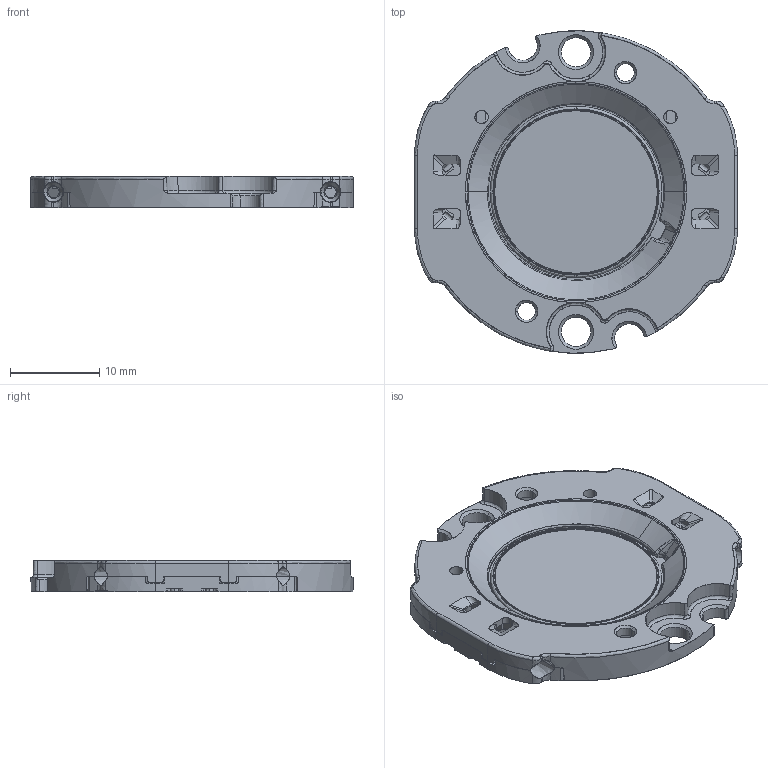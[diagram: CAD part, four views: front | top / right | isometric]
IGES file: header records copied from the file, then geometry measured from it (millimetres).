
Start section: SolidWorks IGES file using analytic representation for surfaces
Global section: file name: D:\Users\5160206\Desktop\3D document\GEN8\Assembly\Vero18\Vero SE\GEN8 Vero18 SE.IGS; native system: SolidWorks 2018; preprocessor: SolidWorks 2018; author: 5160206; date: 200915.104417; units: millimetre
Bounding box: 36.26 x 36.19 x 3.5 mm (x, y, z)
Surface area: 5030.8 mm2 (no closed solid volume)
Topology: 0 solids, 0 shells, 1875 faces, 17021 edges, 17021 vertices
Faces by surface type: bspline 1818, revolution 57
